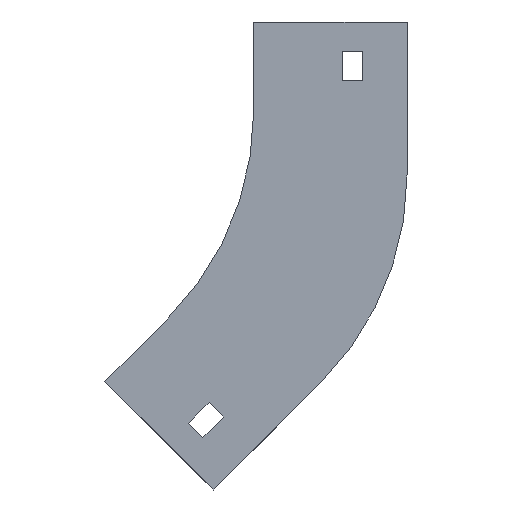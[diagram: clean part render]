
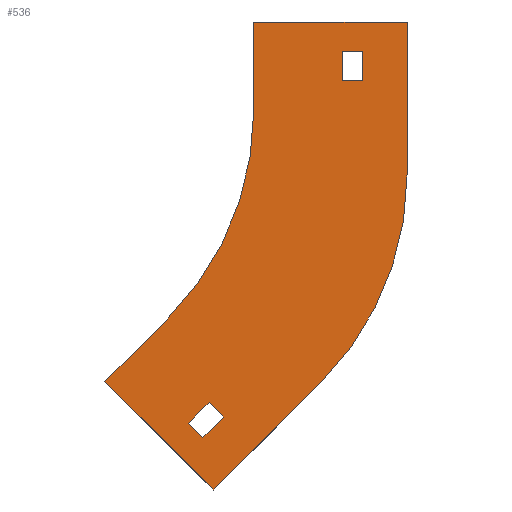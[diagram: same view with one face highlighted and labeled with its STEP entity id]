
A CAD part, left-side view. The second image highlights one B-rep face of the part: STEP entity #536.
In plain terms, the highlighted planar face has unit normal (-1, 0, 0).
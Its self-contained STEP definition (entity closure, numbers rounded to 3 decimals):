
#9 = EDGE_CURVE ( 'NONE', #397, #1144, #1202, .T. ) ;
#11 = CARTESIAN_POINT ( 'NONE',  ( -52., 100., -30. ) ) ;
#43 = CARTESIAN_POINT ( 'NONE',  ( -52., 0., 0. ) ) ;
#46 = DIRECTION ( 'NONE',  ( 0., 0.707, 0.707 ) ) ;
#50 = EDGE_CURVE ( 'NONE', #1377, #192, #1331, .T. ) ;
#55 = EDGE_CURVE ( 'NONE', #722, #1377, #340, .T. ) ;
#57 = CARTESIAN_POINT ( 'NONE',  ( -52., 48., -51.539 ) ) ;
#70 = DIRECTION ( 'NONE',  ( 0., 0., 1. ) ) ;
#79 = ORIENTED_EDGE ( 'NONE', *, *, #685, .T. ) ;
#81 = DIRECTION ( 'NONE',  ( 0., -0.707, -0.707 ) ) ;
#87 = VECTOR ( 'NONE', #189, 1000. ) ;
#90 = CARTESIAN_POINT ( 'NONE',  ( -52., -30., -10. ) ) ;
#124 = EDGE_LOOP ( 'NONE', ( #1180, #134, #1049, #1150 ) ) ;
#132 = VERTEX_POINT ( 'NONE', #1105 ) ;
#134 = ORIENTED_EDGE ( 'NONE', *, *, #247, .F. ) ;
#162 = LINE ( 'NONE', #1142, #658 ) ;
#164 = FACE_BOUND ( 'NONE', #124, .T. ) ;
#165 = CARTESIAN_POINT ( 'NONE',  ( -52., 22.218, -136.066 ) ) ;
#167 = VERTEX_POINT ( 'NONE', #1371 ) ;
#189 = DIRECTION ( 'NONE',  ( 0., -0.707, 0.707 ) ) ;
#192 = VERTEX_POINT ( 'NONE', #382 ) ;
#212 = LINE ( 'NONE', #830, #616 ) ;
#244 = DIRECTION ( 'NONE',  ( 0., 0., -1. ) ) ;
#247 = EDGE_CURVE ( 'NONE', #676, #167, #1034, .T. ) ;
#248 = EDGE_CURVE ( 'NONE', #192, #1391, #997, .T. ) ;
#261 = CARTESIAN_POINT ( 'NONE',  ( -52., 29.289, -100.711 ) ) ;
#264 = PLANE ( 'NONE',  #1384 ) ;
#271 = AXIS2_PLACEMENT_3D ( 'NONE', #57, #369, #400 ) ;
#272 = CARTESIAN_POINT ( 'NONE',  ( -52., 0., 0. ) ) ;
#278 = CARTESIAN_POINT ( 'NONE',  ( -52., 13.733, -158.693 ) ) ;
#285 = EDGE_CURVE ( 'NONE', #132, #919, #319, .T. ) ;
#293 = DIRECTION ( 'NONE',  ( 0., -0.707, 0.707 ) ) ;
#295 = VERTEX_POINT ( 'NONE', #90 ) ;
#319 = LINE ( 'NONE', #515, #87 ) ;
#329 = CARTESIAN_POINT ( 'NONE',  ( -52., -30., -20. ) ) ;
#340 = LINE ( 'NONE', #1228, #453 ) ;
#352 = CARTESIAN_POINT ( 'NONE',  ( -52., 10.197, -133.945 ) ) ;
#358 = CARTESIAN_POINT ( 'NONE',  ( -52., -22.711, -122.25 ) ) ;
#369 = DIRECTION ( 'NONE',  ( 1., 0., 0. ) ) ;
#375 = CARTESIAN_POINT ( 'NONE',  ( -52., 100., -30. ) ) ;
#382 = CARTESIAN_POINT ( 'NONE',  ( -52., -52., -51.539 ) ) ;
#384 = EDGE_CURVE ( 'NONE', #1327, #295, #852, .T. ) ;
#397 = VERTEX_POINT ( 'NONE', #836 ) ;
#400 = DIRECTION ( 'NONE',  ( 0., 0., 1. ) ) ;
#406 = EDGE_CURVE ( 'NONE', #295, #726, #742, .T. ) ;
#429 = CARTESIAN_POINT ( 'NONE',  ( -52., -30., -10. ) ) ;
#442 = EDGE_CURVE ( 'NONE', #726, #1257, #1329, .T. ) ;
#453 = VECTOR ( 'NONE', #773, 1000. ) ;
#473 = VECTOR ( 'NONE', #1182, 1000. ) ;
#477 = CARTESIAN_POINT ( 'NONE',  ( -52., 0., -30. ) ) ;
#489 = ORIENTED_EDGE ( 'NONE', *, *, #667, .F. ) ;
#501 = FACE_OUTER_BOUND ( 'NONE', #634, .T. ) ;
#506 = DIRECTION ( 'NONE',  ( 0., 1., 0. ) ) ;
#515 = CARTESIAN_POINT ( 'NONE',  ( -52., 17.269, -141.016 ) ) ;
#522 = VECTOR ( 'NONE', #689, 1000. ) ;
#536 = ADVANCED_FACE ( 'NONE', ( #501, #579, #164 ), #264, .F. ) ;
#552 = CARTESIAN_POINT ( 'NONE',  ( -52., 50.503, -121.924 ) ) ;
#561 = ORIENTED_EDGE ( 'NONE', *, *, #384, .T. ) ;
#567 = CIRCLE ( 'NONE', #1186, 100. ) ;
#579 = FACE_BOUND ( 'NONE', #854, .T. ) ;
#601 = LINE ( 'NONE', #261, #700 ) ;
#606 = DIRECTION ( 'NONE',  ( 0., 0.707, -0.707 ) ) ;
#611 = ORIENTED_EDGE ( 'NONE', *, *, #442, .T. ) ;
#616 = VECTOR ( 'NONE', #81, 1000. ) ;
#634 = EDGE_LOOP ( 'NONE', ( #783, #489, #897, #1262, #1248, #1158, #1267, #797 ) ) ;
#658 = VECTOR ( 'NONE', #506, 1000. ) ;
#663 = DIRECTION ( 'NONE',  ( 0., 0.707, 0.707 ) ) ;
#667 = EDGE_CURVE ( 'NONE', #1055, #722, #1246, .T. ) ;
#669 = CARTESIAN_POINT ( 'NONE',  ( -52., -52., -51.539 ) ) ;
#676 = VERTEX_POINT ( 'NONE', #709 ) ;
#685 = EDGE_CURVE ( 'NONE', #1257, #1327, #162, .T. ) ;
#689 = DIRECTION ( 'NONE',  ( 0., 0.707, -0.707 ) ) ;
#700 = VECTOR ( 'NONE', #293, 1000. ) ;
#702 = EDGE_CURVE ( 'NONE', #1144, #810, #601, .T. ) ;
#703 = CARTESIAN_POINT ( 'NONE',  ( -52., -52., 0. ) ) ;
#708 = ORIENTED_EDGE ( 'NONE', *, *, #406, .T. ) ;
#709 = CARTESIAN_POINT ( 'NONE',  ( -52., 15.147, -128.995 ) ) ;
#716 = DIRECTION ( 'NONE',  ( 1., 0., 0. ) ) ;
#722 = VERTEX_POINT ( 'NONE', #43 ) ;
#726 = VERTEX_POINT ( 'NONE', #920 ) ;
#742 = LINE ( 'NONE', #429, #473 ) ;
#769 = VECTOR ( 'NONE', #244, 1000. ) ;
#773 = DIRECTION ( 'NONE',  ( 0., -1., 0. ) ) ;
#783 = ORIENTED_EDGE ( 'NONE', *, *, #55, .F. ) ;
#797 = ORIENTED_EDGE ( 'NONE', *, *, #50, .F. ) ;
#810 = VERTEX_POINT ( 'NONE', #1192 ) ;
#830 = CARTESIAN_POINT ( 'NONE',  ( -52., 22.218, -136.066 ) ) ;
#836 = CARTESIAN_POINT ( 'NONE',  ( -52., 13.733, -158.693 ) ) ;
#852 = LINE ( 'NONE', #940, #1245 ) ;
#854 = EDGE_LOOP ( 'NONE', ( #561, #708, #611, #79 ) ) ;
#897 = ORIENTED_EDGE ( 'NONE', *, *, #1281, .F. ) ;
#919 = VERTEX_POINT ( 'NONE', #352 ) ;
#920 = CARTESIAN_POINT ( 'NONE',  ( -52., -37., -10. ) ) ;
#940 = CARTESIAN_POINT ( 'NONE',  ( -52., -30., -10. ) ) ;
#941 = CARTESIAN_POINT ( 'NONE',  ( -52., 50.503, -121.924 ) ) ;
#975 = EDGE_CURVE ( 'NONE', #919, #676, #1243, .T. ) ;
#986 = CARTESIAN_POINT ( 'NONE',  ( -52., -37., -10. ) ) ;
#997 = CIRCLE ( 'NONE', #271, 100. ) ;
#1013 = EDGE_CURVE ( 'NONE', #1391, #397, #1140, .T. ) ;
#1034 = LINE ( 'NONE', #165, #1299 ) ;
#1035 = CARTESIAN_POINT ( 'NONE',  ( -52., 15.147, -128.995 ) ) ;
#1049 = ORIENTED_EDGE ( 'NONE', *, *, #975, .F. ) ;
#1055 = VERTEX_POINT ( 'NONE', #477 ) ;
#1067 = CARTESIAN_POINT ( 'NONE',  ( -52., -37., -20. ) ) ;
#1083 = DIRECTION ( 'NONE',  ( -1., 0., 0. ) ) ;
#1084 = VECTOR ( 'NONE', #70, 1000. ) ;
#1104 = DIRECTION ( 'NONE',  ( 0., 0., -1. ) ) ;
#1105 = CARTESIAN_POINT ( 'NONE',  ( -52., 17.269, -141.016 ) ) ;
#1108 = VECTOR ( 'NONE', #1112, 1000. ) ;
#1112 = DIRECTION ( 'NONE',  ( 0., 0., -1. ) ) ;
#1136 = DIRECTION ( 'NONE',  ( 0., 0., -1. ) ) ;
#1140 = LINE ( 'NONE', #278, #522 ) ;
#1142 = CARTESIAN_POINT ( 'NONE',  ( -52., -30., -20. ) ) ;
#1144 = VERTEX_POINT ( 'NONE', #941 ) ;
#1150 = ORIENTED_EDGE ( 'NONE', *, *, #285, .F. ) ;
#1158 = ORIENTED_EDGE ( 'NONE', *, *, #1013, .F. ) ;
#1161 = EDGE_CURVE ( 'NONE', #167, #132, #212, .T. ) ;
#1180 = ORIENTED_EDGE ( 'NONE', *, *, #1161, .F. ) ;
#1182 = DIRECTION ( 'NONE',  ( 0., -1., 0. ) ) ;
#1186 = AXIS2_PLACEMENT_3D ( 'NONE', #11, #1083, #1104 ) ;
#1192 = CARTESIAN_POINT ( 'NONE',  ( -52., 29.289, -100.711 ) ) ;
#1202 = LINE ( 'NONE', #552, #1406 ) ;
#1203 = VECTOR ( 'NONE', #46, 1000. ) ;
#1228 = CARTESIAN_POINT ( 'NONE',  ( -52., -52., 0. ) ) ;
#1243 = LINE ( 'NONE', #1035, #1203 ) ;
#1245 = VECTOR ( 'NONE', #1289, 1000. ) ;
#1246 = LINE ( 'NONE', #272, #1084 ) ;
#1248 = ORIENTED_EDGE ( 'NONE', *, *, #9, .F. ) ;
#1257 = VERTEX_POINT ( 'NONE', #1067 ) ;
#1262 = ORIENTED_EDGE ( 'NONE', *, *, #702, .F. ) ;
#1267 = ORIENTED_EDGE ( 'NONE', *, *, #248, .F. ) ;
#1281 = EDGE_CURVE ( 'NONE', #810, #1055, #567, .T. ) ;
#1289 = DIRECTION ( 'NONE',  ( 0., 0., 1. ) ) ;
#1299 = VECTOR ( 'NONE', #606, 1000. ) ;
#1327 = VERTEX_POINT ( 'NONE', #329 ) ;
#1329 = LINE ( 'NONE', #986, #1108 ) ;
#1331 = LINE ( 'NONE', #669, #769 ) ;
#1371 = CARTESIAN_POINT ( 'NONE',  ( -52., 22.218, -136.066 ) ) ;
#1377 = VERTEX_POINT ( 'NONE', #703 ) ;
#1384 = AXIS2_PLACEMENT_3D ( 'NONE', #375, #716, #1136 ) ;
#1391 = VERTEX_POINT ( 'NONE', #358 ) ;
#1406 = VECTOR ( 'NONE', #663, 1000. ) ;
